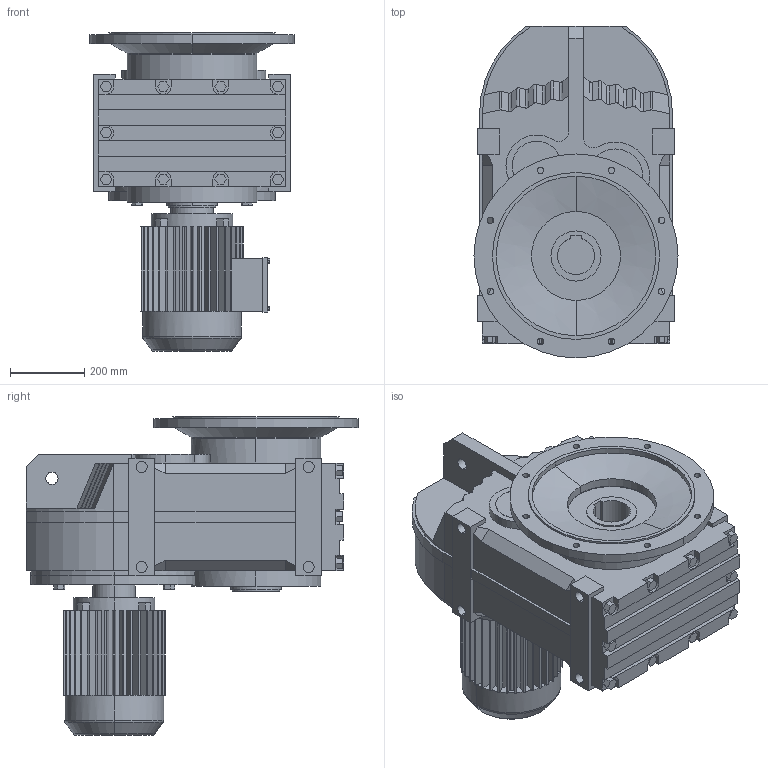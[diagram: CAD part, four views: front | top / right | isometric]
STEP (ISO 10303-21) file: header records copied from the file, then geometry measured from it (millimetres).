
FILE_DESCRIPTION(('Open CASCADE Model'),'2;1');
FILE_NAME('Open CASCADE Shape Model','2021-07-20T10:13:05',('Author'),( 'Open CASCADE'),'Open CASCADE STEP processor 6.3','Open CASCADE 6.3' ,'Unknown');
FILE_SCHEMA(('AUTOMOTIVE_DESIGN_CC2 { 1 2 10303 214 -1 1 5 4 }'));
Length unit declared in the file: millimetre
Products named in the file (5): 1_FAF127-Y132M; FA27‵157_127.step; 萇儂_450_Y132M.step; す瑩諾陑粣F_127.step; 楊擘F_127.step
Assembly tree (4 placements, depth 2):
  1_FAF127-Y132M
    FA27‵157_127.step
    萇儂_450_Y132M.step
    す瑩諾陑粣F_127.step
    楊擘F_127.step
Bounding box: 550 x 895 x 859 mm (x, y, z)
Volume: 151254003.5 mm3; surface area: 4044797.1 mm2
Topology: 4 solids, 4 shells, 819 faces, 2149 edges, 1400 vertices
Faces by surface type: plane 570, cylinder 223, bspline 16, cone 6, torus 4
Entity records: 54695 total; most frequent: CARTESIAN_POINT 13558, DIRECTION 7165, ORIENTED_EDGE 4298, PCURVE 4298, DEFINITIONAL_REPRESENTATION 4298, LINE 3913, VECTOR 3913, EDGE_CURVE 2149
